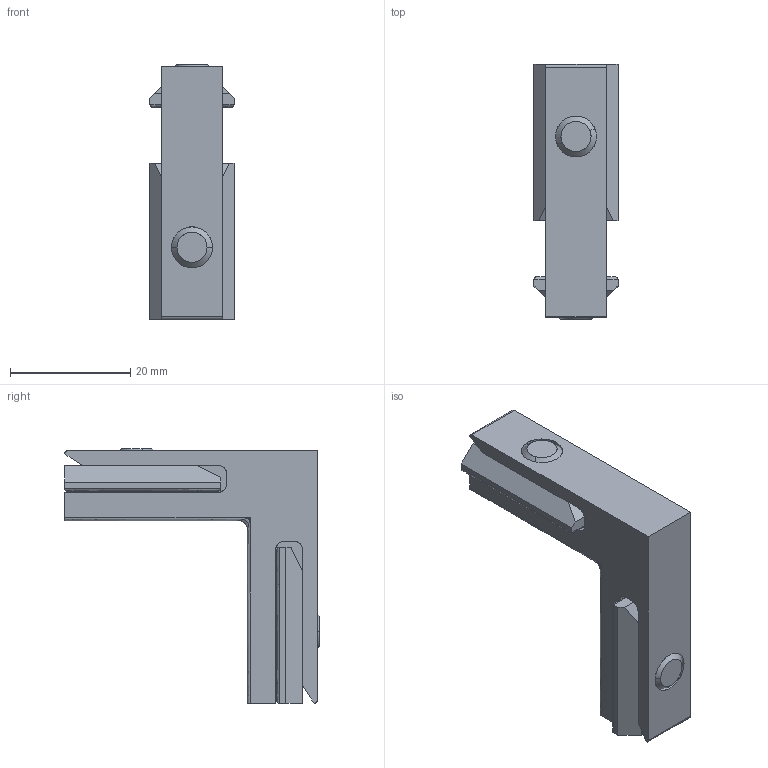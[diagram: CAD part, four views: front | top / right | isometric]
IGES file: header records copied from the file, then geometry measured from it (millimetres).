
Start section: SolidWorks IGES file using analytic representation for surfaces
Global section: file name: C:\Sakuma\21期\カタログ用データ作成2012\【未】\SFK-610S\SFK-610S.IGS,15HSolidWorks; native system: 2011; preprocessor: SolidWorks 2011; author: sakumaN; date: 121120.210553; units: millimetre
Bounding box: 14 x 42.4 x 42.4 mm (x, y, z)
Surface area: 5404.9 mm2 (no closed solid volume)
Topology: 0 solids, 0 shells, 100 faces, 1254 edges, 1252 vertices
Faces by surface type: bspline 65, revolution 35
